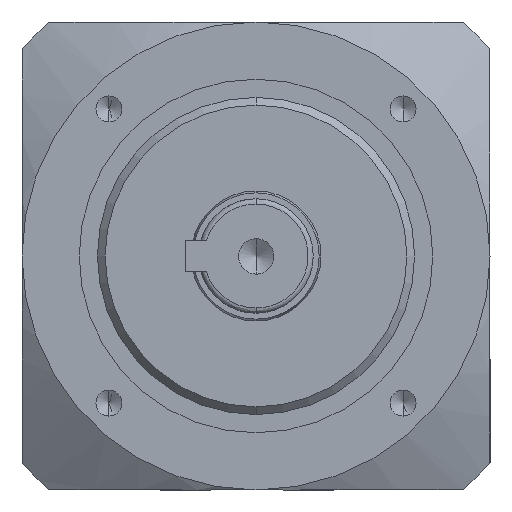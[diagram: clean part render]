
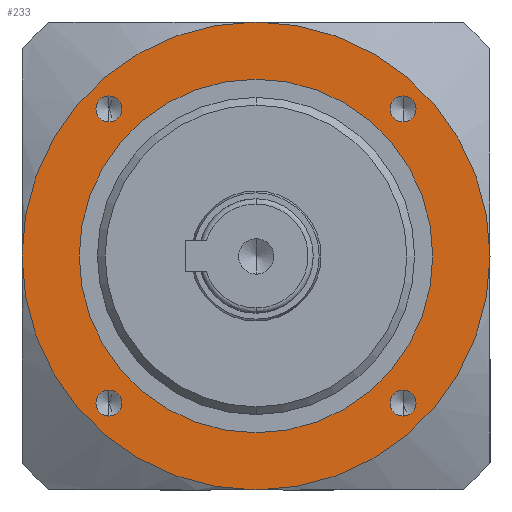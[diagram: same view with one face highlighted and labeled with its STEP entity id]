
A CAD part, left-side view. The second image highlights one B-rep face of the part: STEP entity #233.
In plain terms, the highlighted planar face has unit normal (-1, 0, 0).
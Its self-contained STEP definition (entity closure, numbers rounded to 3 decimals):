
#36 = ORIENTED_EDGE ( 'NONE', *, *, #1640, .F. ) ;
#60 = DIRECTION ( 'NONE',  ( 0., 0., 1. ) ) ;
#68 = DIRECTION ( 'NONE',  ( -1., 0., 0. ) ) ;
#83 = DIRECTION ( 'NONE',  ( 0., 0., 1. ) ) ;
#129 = DIRECTION ( 'NONE',  ( 0., 0., -1. ) ) ;
#130 = CARTESIAN_POINT ( 'NONE',  ( 20.997, 28.284, -25.784 ) ) ;
#178 = EDGE_CURVE ( 'NONE', #2075, #423, #1026, .T. ) ;
#187 = VERTEX_POINT ( 'NONE', #3103 ) ;
#233 = ADVANCED_FACE ( 'NONE', ( #2111, #516, #2324, #354, #392, #3027 ), #2844, .F. ) ;
#246 = AXIS2_PLACEMENT_3D ( 'NONE', #2531, #1519, #2781 ) ;
#249 = ORIENTED_EDGE ( 'NONE', *, *, #1529, .F. ) ;
#277 = CIRCLE ( 'NONE', #1365, 2.5 ) ;
#286 = CARTESIAN_POINT ( 'NONE',  ( 20.997, 28.284, 28.284 ) ) ;
#322 = ORIENTED_EDGE ( 'NONE', *, *, #2434, .F. ) ;
#351 = CIRCLE ( 'NONE', #2590, 34. ) ;
#354 = FACE_BOUND ( 'NONE', #748, .T. ) ;
#365 = EDGE_CURVE ( 'NONE', #1514, #1388, #277, .T. ) ;
#392 = FACE_OUTER_BOUND ( 'NONE', #1675, .T. ) ;
#420 = DIRECTION ( 'NONE',  ( -1., 0., 0. ) ) ;
#423 = VERTEX_POINT ( 'NONE', #1687 ) ;
#428 = CIRCLE ( 'NONE', #246, 45. ) ;
#438 = DIRECTION ( 'NONE',  ( 1., 0., 0. ) ) ;
#440 = CIRCLE ( 'NONE', #1110, 45. ) ;
#499 = AXIS2_PLACEMENT_3D ( 'NONE', #2629, #1216, #962 ) ;
#516 = FACE_BOUND ( 'NONE', #1456, .T. ) ;
#544 = CARTESIAN_POINT ( 'NONE',  ( 20.997, -28.284, -30.784 ) ) ;
#551 = DIRECTION ( 'NONE',  ( -1., 0., 0. ) ) ;
#570 = DIRECTION ( 'NONE',  ( 0., 0., -1. ) ) ;
#591 = EDGE_CURVE ( 'NONE', #2822, #757, #351, .T. ) ;
#596 = AXIS2_PLACEMENT_3D ( 'NONE', #2691, #68, #60 ) ;
#608 = DIRECTION ( 'NONE',  ( -1., 0., 0. ) ) ;
#719 = CARTESIAN_POINT ( 'NONE',  ( 20.997, 0., -34. ) ) ;
#724 = EDGE_CURVE ( 'NONE', #1388, #1514, #2595, .T. ) ;
#748 = EDGE_LOOP ( 'NONE', ( #2718, #2573 ) ) ;
#757 = VERTEX_POINT ( 'NONE', #719 ) ;
#779 = CARTESIAN_POINT ( 'NONE',  ( 20.997, 28.284, 30.784 ) ) ;
#808 = CIRCLE ( 'NONE', #596, 2.5 ) ;
#825 = VERTEX_POINT ( 'NONE', #544 ) ;
#850 = EDGE_CURVE ( 'NONE', #423, #2075, #808, .T. ) ;
#887 = DIRECTION ( 'NONE',  ( 1., 0., 0. ) ) ;
#892 = CARTESIAN_POINT ( 'NONE',  ( 20.997, 0., 34. ) ) ;
#962 = DIRECTION ( 'NONE',  ( 0., 0., 1. ) ) ;
#1011 = EDGE_LOOP ( 'NONE', ( #1639, #2032 ) ) ;
#1026 = CIRCLE ( 'NONE', #2693, 2.5 ) ;
#1061 = DIRECTION ( 'NONE',  ( 0., 0., 1. ) ) ;
#1110 = AXIS2_PLACEMENT_3D ( 'NONE', #1824, #438, #2071 ) ;
#1216 = DIRECTION ( 'NONE',  ( -1., 0., 0. ) ) ;
#1217 = ORIENTED_EDGE ( 'NONE', *, *, #2151, .F. ) ;
#1249 = CARTESIAN_POINT ( 'NONE',  ( 20.997, -28.284, -28.284 ) ) ;
#1318 = CARTESIAN_POINT ( 'NONE',  ( 20.997, 0., 0. ) ) ;
#1365 = AXIS2_PLACEMENT_3D ( 'NONE', #286, #1462, #2922 ) ;
#1388 = VERTEX_POINT ( 'NONE', #779 ) ;
#1405 = CIRCLE ( 'NONE', #2555, 2.5 ) ;
#1456 = EDGE_LOOP ( 'NONE', ( #3098, #249 ) ) ;
#1462 = DIRECTION ( 'NONE',  ( -1., 0., 0. ) ) ;
#1514 = VERTEX_POINT ( 'NONE', #2249 ) ;
#1519 = DIRECTION ( 'NONE',  ( 1., 0., 0. ) ) ;
#1529 = EDGE_CURVE ( 'NONE', #825, #1898, #2192, .T. ) ;
#1552 = VERTEX_POINT ( 'NONE', #2498 ) ;
#1554 = AXIS2_PLACEMENT_3D ( 'NONE', #1249, #2977, #83 ) ;
#1565 = DIRECTION ( 'NONE',  ( 1., 0., 0. ) ) ;
#1639 = ORIENTED_EDGE ( 'NONE', *, *, #3093, .T. ) ;
#1640 = EDGE_CURVE ( 'NONE', #1552, #187, #428, .T. ) ;
#1675 = EDGE_LOOP ( 'NONE', ( #36, #2841 ) ) ;
#1678 = CIRCLE ( 'NONE', #2529, 2.5 ) ;
#1687 = CARTESIAN_POINT ( 'NONE',  ( 20.997, 28.284, -30.784 ) ) ;
#1814 = CARTESIAN_POINT ( 'NONE',  ( 20.997, -28.284, 25.784 ) ) ;
#1824 = CARTESIAN_POINT ( 'NONE',  ( 20.997, 0., 0. ) ) ;
#1843 = DIRECTION ( 'NONE',  ( 0., 0., 1. ) ) ;
#1871 = DIRECTION ( 'NONE',  ( -1., 0., 0. ) ) ;
#1877 = EDGE_CURVE ( 'NONE', #1898, #825, #1934, .T. ) ;
#1898 = VERTEX_POINT ( 'NONE', #2695 ) ;
#1934 = CIRCLE ( 'NONE', #1554, 2.5 ) ;
#1977 = DIRECTION ( 'NONE',  ( 1., 0., 0. ) ) ;
#2032 = ORIENTED_EDGE ( 'NONE', *, *, #591, .T. ) ;
#2066 = CARTESIAN_POINT ( 'NONE',  ( 20.997, -28.284, 30.784 ) ) ;
#2071 = DIRECTION ( 'NONE',  ( 0., 0., -1. ) ) ;
#2072 = CARTESIAN_POINT ( 'NONE',  ( 20.997, 0., 0. ) ) ;
#2075 = VERTEX_POINT ( 'NONE', #130 ) ;
#2090 = CARTESIAN_POINT ( 'NONE',  ( 20.997, -28.284, 28.284 ) ) ;
#2111 = FACE_BOUND ( 'NONE', #2857, .T. ) ;
#2120 = DIRECTION ( 'NONE',  ( 0., 0., 1. ) ) ;
#2151 = EDGE_CURVE ( 'NONE', #2603, #2694, #1678, .T. ) ;
#2192 = CIRCLE ( 'NONE', #2777, 2.5 ) ;
#2194 = DIRECTION ( 'NONE',  ( 0., 0., 1. ) ) ;
#2218 = CARTESIAN_POINT ( 'NONE',  ( 20.997, -28.284, 28.284 ) ) ;
#2249 = CARTESIAN_POINT ( 'NONE',  ( 20.997, 28.284, 25.784 ) ) ;
#2324 = FACE_BOUND ( 'NONE', #2921, .T. ) ;
#2359 = AXIS2_PLACEMENT_3D ( 'NONE', #2686, #1977, #570 ) ;
#2429 = AXIS2_PLACEMENT_3D ( 'NONE', #2072, #887, #2568 ) ;
#2434 = EDGE_CURVE ( 'NONE', #2694, #2603, #1405, .T. ) ;
#2488 = CARTESIAN_POINT ( 'NONE',  ( 20.997, -28.284, -28.284 ) ) ;
#2498 = CARTESIAN_POINT ( 'NONE',  ( 20.997, 0., -45. ) ) ;
#2529 = AXIS2_PLACEMENT_3D ( 'NONE', #2090, #420, #1843 ) ;
#2531 = CARTESIAN_POINT ( 'NONE',  ( 20.997, 0., 0. ) ) ;
#2555 = AXIS2_PLACEMENT_3D ( 'NONE', #2218, #551, #2194 ) ;
#2568 = DIRECTION ( 'NONE',  ( 0., 0., -1. ) ) ;
#2572 = CARTESIAN_POINT ( 'NONE',  ( 20.997, 28.284, -28.284 ) ) ;
#2573 = ORIENTED_EDGE ( 'NONE', *, *, #365, .F. ) ;
#2579 = ORIENTED_EDGE ( 'NONE', *, *, #850, .F. ) ;
#2590 = AXIS2_PLACEMENT_3D ( 'NONE', #1318, #1565, #129 ) ;
#2595 = CIRCLE ( 'NONE', #499, 2.5 ) ;
#2603 = VERTEX_POINT ( 'NONE', #1814 ) ;
#2629 = CARTESIAN_POINT ( 'NONE',  ( 20.997, 28.284, 28.284 ) ) ;
#2663 = EDGE_CURVE ( 'NONE', #187, #1552, #440, .T. ) ;
#2686 = CARTESIAN_POINT ( 'NONE',  ( 20.997, 0., 0. ) ) ;
#2691 = CARTESIAN_POINT ( 'NONE',  ( 20.997, 28.284, -28.284 ) ) ;
#2693 = AXIS2_PLACEMENT_3D ( 'NONE', #2572, #1871, #2120 ) ;
#2694 = VERTEX_POINT ( 'NONE', #2066 ) ;
#2695 = CARTESIAN_POINT ( 'NONE',  ( 20.997, -28.284, -25.784 ) ) ;
#2718 = ORIENTED_EDGE ( 'NONE', *, *, #724, .F. ) ;
#2777 = AXIS2_PLACEMENT_3D ( 'NONE', #2488, #608, #1061 ) ;
#2781 = DIRECTION ( 'NONE',  ( 0., 0., -1. ) ) ;
#2822 = VERTEX_POINT ( 'NONE', #892 ) ;
#2829 = CIRCLE ( 'NONE', #2429, 34. ) ;
#2841 = ORIENTED_EDGE ( 'NONE', *, *, #2663, .F. ) ;
#2844 = PLANE ( 'NONE',  #2359 ) ;
#2857 = EDGE_LOOP ( 'NONE', ( #3000, #2579 ) ) ;
#2921 = EDGE_LOOP ( 'NONE', ( #322, #1217 ) ) ;
#2922 = DIRECTION ( 'NONE',  ( 0., 0., 1. ) ) ;
#2977 = DIRECTION ( 'NONE',  ( -1., 0., 0. ) ) ;
#3000 = ORIENTED_EDGE ( 'NONE', *, *, #178, .F. ) ;
#3027 = FACE_BOUND ( 'NONE', #1011, .T. ) ;
#3093 = EDGE_CURVE ( 'NONE', #757, #2822, #2829, .T. ) ;
#3098 = ORIENTED_EDGE ( 'NONE', *, *, #1877, .F. ) ;
#3103 = CARTESIAN_POINT ( 'NONE',  ( 20.997, 0., 45. ) ) ;
